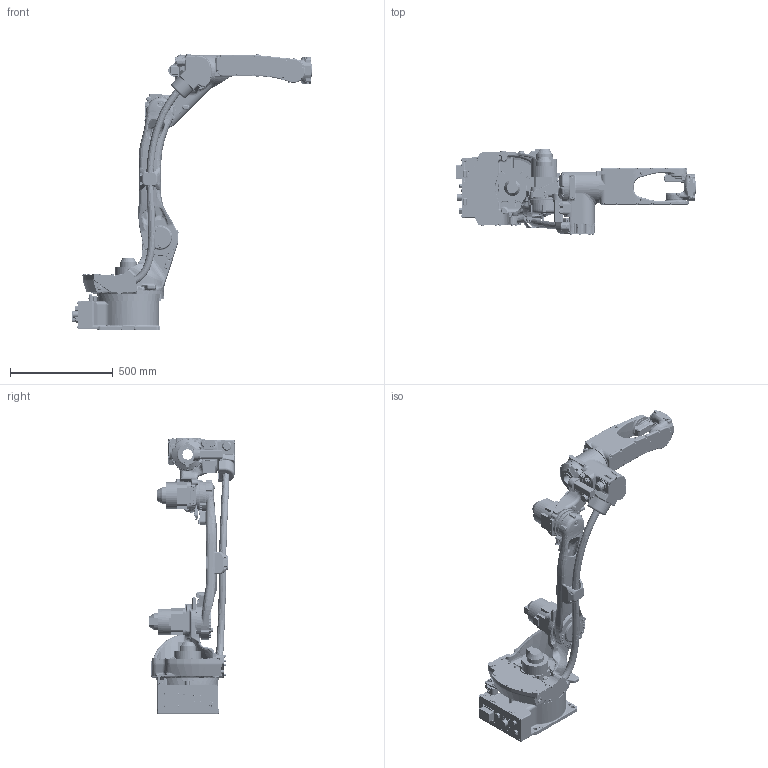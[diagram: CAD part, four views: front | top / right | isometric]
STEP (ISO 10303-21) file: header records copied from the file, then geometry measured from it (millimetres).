
FILE_DESCRIPTION(/* description */ (''),/* implementation_level */ '2;1');
FILE_NAME(/* name */ 'GP12-C00.stp',/* time_stamp */ '2019-03-07T13:23:16+01:00',/* author */ (''),/* organization */ (''),/* preprocessor_version */ 'ST-DEVELOPER v16.7',/* originating_system */ 'SIEMENS PLM Software NX 12.0',/* authorisation */ '');
FILE_SCHEMA (('AUTOMOTIVE_DESIGN { 1 0 10303 214 3 1 1 1 }'));
Products named in the file (8): ASSY_T_AXIS_GP12-C00; ASSY_B_AXIS_GP12-C00; ASSY_R_AXIS_GP12-C00; ASSY_U_AXIS_GP12-C00; ASSY_L_AXIS_GP12-C00; ASSY_S_AXIS_GP12-C00; ASSY_BASE_GP12-C00; GP12-C00
Assembly tree (7 placements, depth 2):
  GP12-C00
    ASSY_BASE_GP12-C00
    ASSY_S_AXIS_GP12-C00
    ASSY_L_AXIS_GP12-C00
    ASSY_U_AXIS_GP12-C00
    ASSY_R_AXIS_GP12-C00
    ASSY_B_AXIS_GP12-C00
    ASSY_T_AXIS_GP12-C00
Bounding box: 1169.85 x 415.8 x 1345 mm (x, y, z)
Volume: 50693263.9 mm3; surface area: 2795854.1 mm2
Topology: 7 solids, 8 shells, 8143 faces, 20114 edges, 12265 vertices
Faces by surface type: plane 2687, cylinder 2661, bspline 1511, torus 732, cone 366, sphere 142, extrusion 43, revolution 1
Full cylindrical faces by diameter (mm): 19 x1, 152 x1
Entity records: 360534 total; most frequent: CARTESIAN_POINT 175748, ORIENTED_EDGE 40066, DIRECTION 37543, EDGE_CURVE 20033, AXIS2_PLACEMENT_3D 14902, VERTEX_POINT 12264, EDGE_LOOP 8641, CIRCLE 8246
